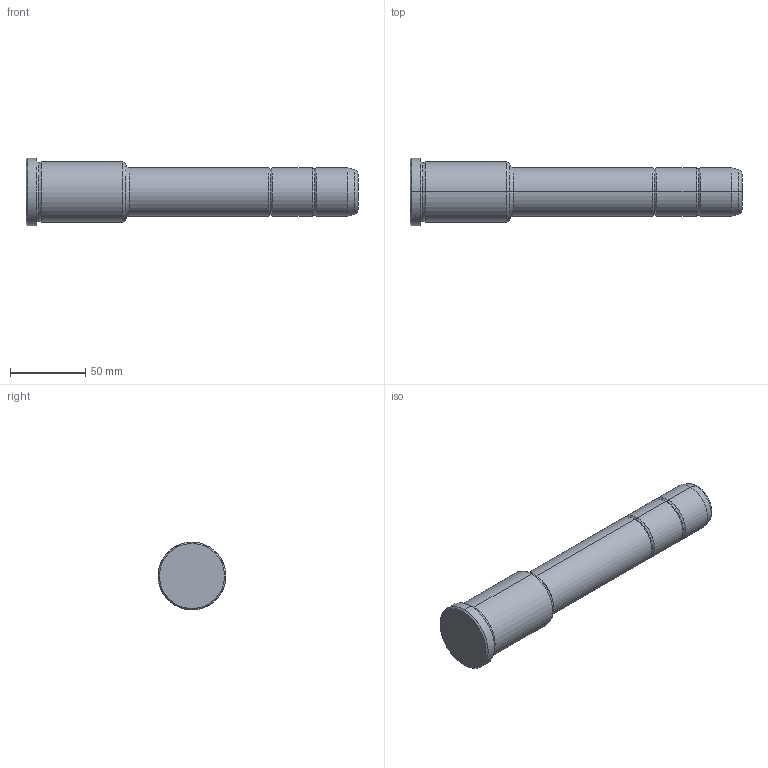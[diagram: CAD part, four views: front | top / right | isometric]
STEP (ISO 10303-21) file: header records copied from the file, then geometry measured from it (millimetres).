
FILE_DESCRIPTION(('CATIA V5 STEP Exchange'),'2;1');
FILE_NAME('C:\Users\Utente\Desktop\IO LAVORO\3D X SITO CF\X SITO\PLASTICA\351\351-32X66X220.stp','2021-09-07T12:27:24+00:00',('none'),('none'),'CATIA Version 5 Release 20 GA (IN-10)','CATIA V5 STEP AP203','none');
FILE_SCHEMA(('CONFIG_CONTROL_DESIGN'));
Length unit declared in the file: millimetre
Products named in the file (1): 351-32X66X220
Bounding box: 220 x 45 x 45 mm (x, y, z)
Volume: 207923.5 mm3; surface area: 26637.1 mm2
Topology: 1 solids, 1 shells, 36 faces, 102 edges, 70 vertices
Faces by surface type: torus 16, cylinder 10, cone 6, plane 4
Entity records: 1292 total; most frequent: CARTESIAN_POINT 321, ORIENTED_EDGE 204, DIRECTION 166, AXIS2_PLACEMENT_3D 115, EDGE_CURVE 102, CIRCLE 78, VERTEX_POINT 70, EDGE_LOOP 38
